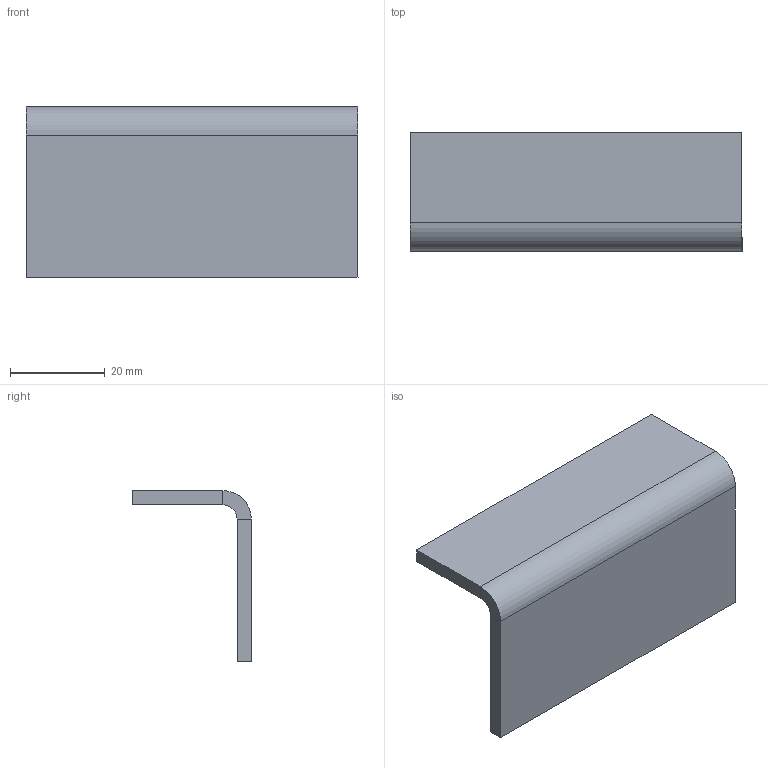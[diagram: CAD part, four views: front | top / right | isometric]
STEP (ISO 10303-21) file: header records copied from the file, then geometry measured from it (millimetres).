
FILE_DESCRIPTION (( 'STEP AP203' ), '1' );
FILE_NAME ('ORW-72.24.20.10.006 赶鎀鍧.STEP', '2025-10-13T13:18:56', ( '燴僽樥' ), ( '' ), 'SwSTEP 2.0', 'SolidWorks 2025', '' );
FILE_SCHEMA (( 'CONFIG_CONTROL_DESIGN' ));
Length unit declared in the file: millimetre
Products named in the file (1): ORW-72.24.20.10.006 Уголок
Bounding box: 70 x 25 x 36 mm (x, y, z)
Volume: 11774.4 mm3; surface area: 8606 mm2
Topology: 1 solids, 1 shells, 14 faces, 28 edges, 16 vertices
Faces by surface type: plane 12, cylinder 2
Entity records: 427 total; most frequent: DIRECTION 62, CARTESIAN_POINT 59, ORIENTED_EDGE 56, EDGE_CURVE 28, VECTOR 24, LINE 24, AXIS2_PLACEMENT_3D 19, VERTEX_POINT 16
